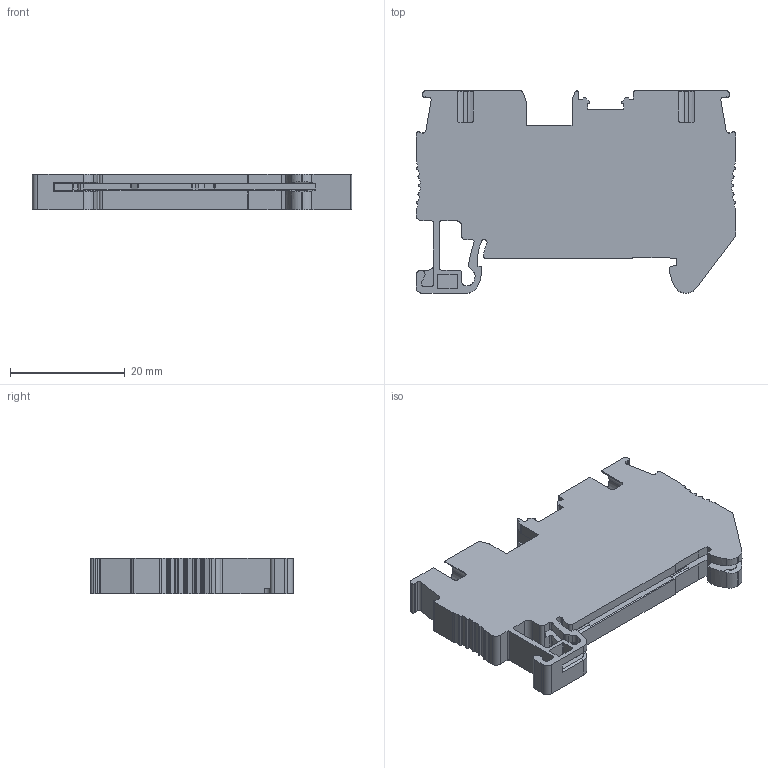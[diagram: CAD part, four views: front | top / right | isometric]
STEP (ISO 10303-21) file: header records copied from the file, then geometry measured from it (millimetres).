
FILE_DESCRIPTION((''),'2;1');
FILE_NAME('UPT-4PEASSY','2024-03-29T15:36:53',('Administrator'),(''),'CREO PARAMETRIC BY PTC INC, 2018050','CREO PARAMETRIC BY PTC INC, 2018050','');
FILE_SCHEMA(('CONFIG_CONTROL_DESIGN'));
Length unit declared in the file: millimetre
Products named in the file (1): UPT-4PEASSY
Bounding box: 55.8 x 35.3 x 6.2 mm (x, y, z)
Volume: 7914.3 mm3; surface area: 7489 mm2
Topology: 1 solids, 2 shells, 824 faces, 2404 edges, 1568 vertices
Faces by surface type: plane 477, cylinder 288, cone 32, torus 18, bspline 8, extrusion 1
Entity records: 28228 total; most frequent: CARTESIAN_POINT 6106, ORIENTED_EDGE 4800, DIRECTION 4498, EDGE_CURVE 2400, VECTOR 1668, LINE 1667, VERTEX_POINT 1568, AXIS2_PLACEMENT_3D 1415
